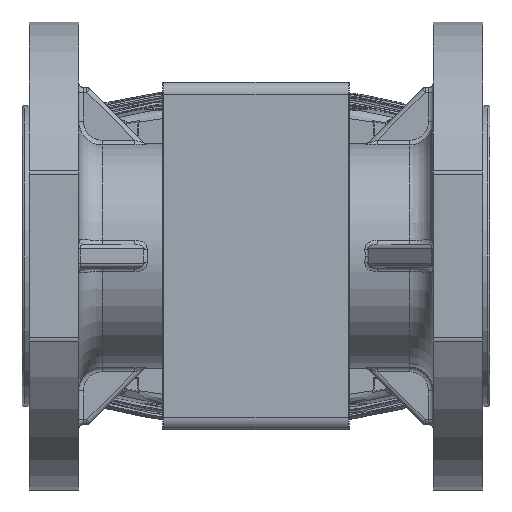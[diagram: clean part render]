
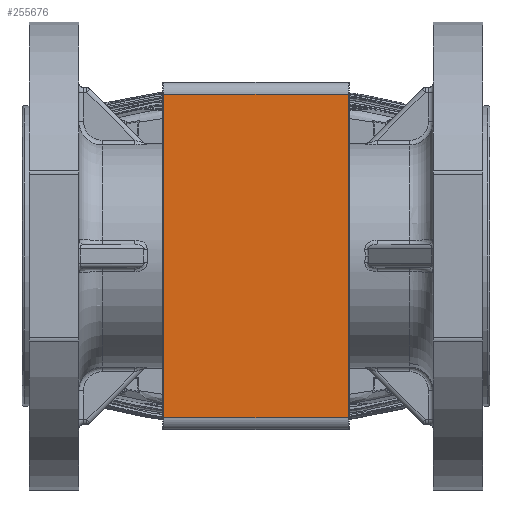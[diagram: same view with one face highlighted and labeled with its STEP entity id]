
A CAD part, front view. The second image highlights one B-rep face of the part: STEP entity #255676.
In plain terms, the highlighted planar face has unit normal (0, -1, 0).
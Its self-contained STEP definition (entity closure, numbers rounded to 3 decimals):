
#6379 = ORIENTED_EDGE ( 'NONE', *, *, #112322, .T. ) ;
#6527 = DIRECTION ( 'NONE',  ( 0., 0., -1. ) ) ;
#11171 = DIRECTION ( 'NONE',  ( -1., 0., 0. ) ) ;
#24384 = CARTESIAN_POINT ( 'NONE',  ( 39.5, -63.5, 73.5 ) ) ;
#24983 = VERTEX_POINT ( 'NONE', #241823 ) ;
#29523 = VERTEX_POINT ( 'NONE', #202092 ) ;
#30307 = FACE_OUTER_BOUND ( 'NONE', #177320, .T. ) ;
#30689 = LINE ( 'NONE', #50140, #81532 ) ;
#39421 = VERTEX_POINT ( 'NONE', #144021 ) ;
#42539 = AXIS2_PLACEMENT_3D ( 'NONE', #24384, #67995, #219777 ) ;
#46245 = PLANE ( 'NONE',  #42539 ) ;
#46336 = ORIENTED_EDGE ( 'NONE', *, *, #237783, .T. ) ;
#50140 = CARTESIAN_POINT ( 'NONE',  ( -39., -63.5, 73.5 ) ) ;
#67995 = DIRECTION ( 'NONE',  ( 0., -1., 0. ) ) ;
#79106 = VECTOR ( 'NONE', #99539, 1000. ) ;
#81532 = VECTOR ( 'NONE', #6527, 1000. ) ;
#84081 = VECTOR ( 'NONE', #176123, 1000. ) ;
#90909 = LINE ( 'NONE', #240111, #84081 ) ;
#93717 = ORIENTED_EDGE ( 'NONE', *, *, #156230, .T. ) ;
#99539 = DIRECTION ( 'NONE',  ( 0., 0., 1. ) ) ;
#108237 = VECTOR ( 'NONE', #11171, 1000. ) ;
#112322 = EDGE_CURVE ( 'NONE', #245012, #39421, #90909, .T. ) ;
#115082 = LINE ( 'NONE', #142079, #108237 ) ;
#115667 = CARTESIAN_POINT ( 'NONE',  ( 39., -63.5, 73.5 ) ) ;
#142079 = CARTESIAN_POINT ( 'NONE',  ( -39., -63.5, 68.5 ) ) ;
#144021 = CARTESIAN_POINT ( 'NONE',  ( 39., -63.5, -68.5 ) ) ;
#156230 = EDGE_CURVE ( 'NONE', #24983, #245012, #30689, .T. ) ;
#164668 = EDGE_CURVE ( 'NONE', #29523, #24983, #115082, .T. ) ;
#172407 = CARTESIAN_POINT ( 'NONE',  ( -39., -63.5, -68.5 ) ) ;
#176123 = DIRECTION ( 'NONE',  ( 1., 0., 0. ) ) ;
#177320 = EDGE_LOOP ( 'NONE', ( #46336, #221010, #93717, #6379 ) ) ;
#202092 = CARTESIAN_POINT ( 'NONE',  ( 39., -63.5, 68.5 ) ) ;
#219777 = DIRECTION ( 'NONE',  ( 0., 0., -1. ) ) ;
#221010 = ORIENTED_EDGE ( 'NONE', *, *, #164668, .T. ) ;
#237783 = EDGE_CURVE ( 'NONE', #39421, #29523, #252284, .T. ) ;
#240111 = CARTESIAN_POINT ( 'NONE',  ( 39., -63.5, -68.5 ) ) ;
#241823 = CARTESIAN_POINT ( 'NONE',  ( -39., -63.5, 68.5 ) ) ;
#245012 = VERTEX_POINT ( 'NONE', #172407 ) ;
#252284 = LINE ( 'NONE', #115667, #79106 ) ;
#255676 = ADVANCED_FACE ( 'NONE', ( #30307 ), #46245, .T. ) ;
